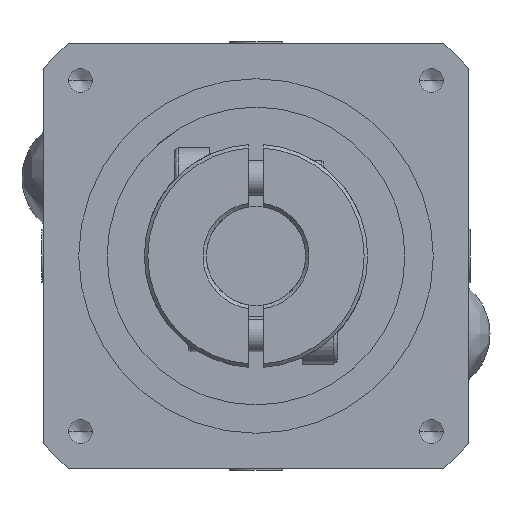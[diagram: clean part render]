
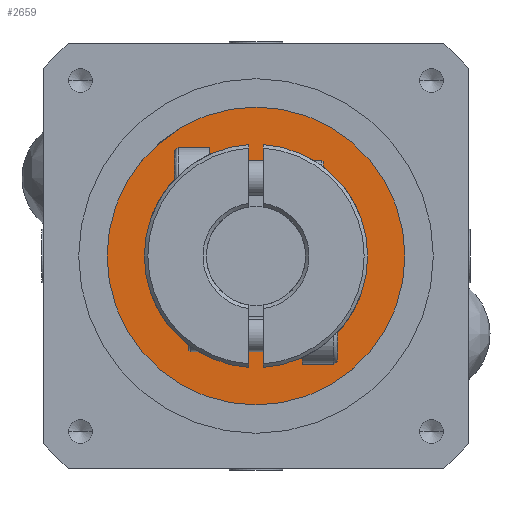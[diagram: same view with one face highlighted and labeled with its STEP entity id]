
A CAD part, left-side view. The second image highlights one B-rep face of the part: STEP entity #2659.
In plain terms, the highlighted planar face has unit normal (-1, 0, 0) as drawn and (0, 0, 1) by its records, which use the part's own axes.
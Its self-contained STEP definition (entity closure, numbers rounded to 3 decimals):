
#77 = AXIS2_PLACEMENT_3D ( 'NONE', #5111, #949, #5174 ) ;
#159 = DIRECTION ( 'NONE',  ( 0., 0., 1. ) ) ;
#949 = DIRECTION ( 'NONE',  ( 0., 0., 1. ) ) ;
#1440 = EDGE_LOOP ( 'NONE', ( #7193, #8738 ) ) ;
#1613 = CARTESIAN_POINT ( 'NONE',  ( 0., 0., 12.5 ) ) ;
#1718 = FACE_OUTER_BOUND ( 'NONE', #1440, .T. ) ;
#1859 = CARTESIAN_POINT ( 'NONE',  ( 30., 0., 12.5 ) ) ;
#2326 = DIRECTION ( 'NONE',  ( 0., 0., 1. ) ) ;
#2364 = VERTEX_POINT ( 'NONE', #7921 ) ;
#2659 = ADVANCED_FACE ( 'NONE', ( #1718 ), #8472, .T. ) ;
#3115 = EDGE_CURVE ( 'NONE', #5956, #2364, #7648, .T. ) ;
#4699 = CIRCLE ( 'NONE', #7807, 30. ) ;
#4830 = CARTESIAN_POINT ( 'NONE',  ( 0., 0., 12.5 ) ) ;
#5111 = CARTESIAN_POINT ( 'NONE',  ( 0., 0., 12.5 ) ) ;
#5174 = DIRECTION ( 'NONE',  ( 1., 0., 0. ) ) ;
#5726 = AXIS2_PLACEMENT_3D ( 'NONE', #1613, #2326, #7723 ) ;
#5956 = VERTEX_POINT ( 'NONE', #1859 ) ;
#6186 = EDGE_CURVE ( 'NONE', #2364, #5956, #4699, .T. ) ;
#6966 = DIRECTION ( 'NONE',  ( -1., 0., 0. ) ) ;
#7193 = ORIENTED_EDGE ( 'NONE', *, *, #6186, .T. ) ;
#7648 = CIRCLE ( 'NONE', #5726, 30. ) ;
#7723 = DIRECTION ( 'NONE',  ( -1., 0., 0. ) ) ;
#7807 = AXIS2_PLACEMENT_3D ( 'NONE', #4830, #159, #6966 ) ;
#7921 = CARTESIAN_POINT ( 'NONE',  ( -30., 0., 12.5 ) ) ;
#8472 = PLANE ( 'NONE',  #77 ) ;
#8738 = ORIENTED_EDGE ( 'NONE', *, *, #3115, .T. ) ;
